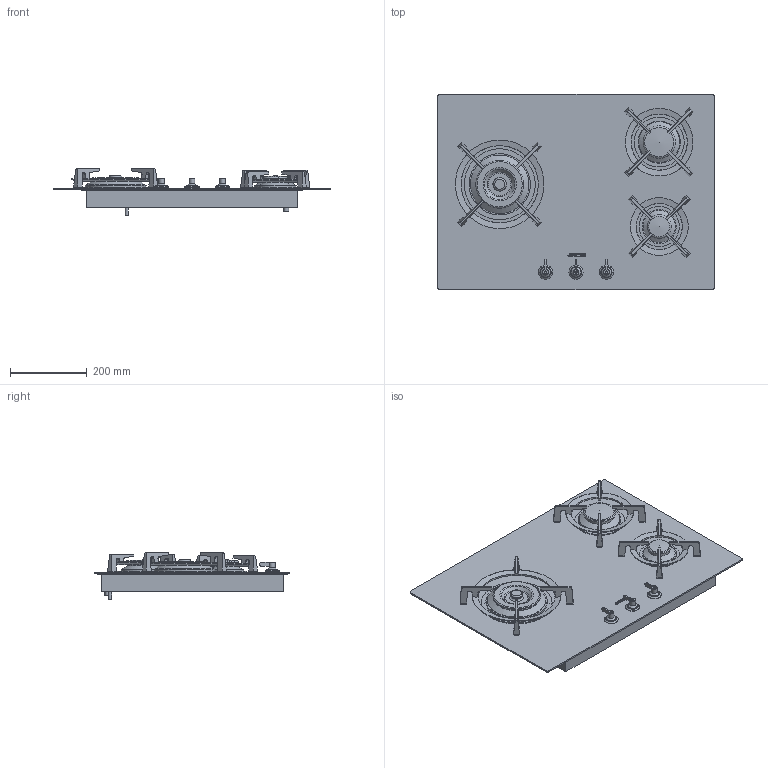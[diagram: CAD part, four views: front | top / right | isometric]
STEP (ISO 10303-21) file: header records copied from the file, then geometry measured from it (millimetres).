
FILE_DESCRIPTION(/* description */ (''),/* implementation_level */ '2;1');
FILE_NAME(/* name */ 'piano pc73.stp',/* time_stamp */ '2018-10-31T17:50:24+01:00',/* author */ (''),/* organization */ (''),/* preprocessor_version */ 'ST-DEVELOPER v16',/* originating_system */ 'SIEMENS PLM Software NX 11.0',/* authorisation */ '');
FILE_SCHEMA (('AUTOMOTIVE_DESIGN { 1 0 10303 214 3 1 1 1 }'));
Length unit declared in the file: millimetre
Products named in the file (1): gobb249C13F3gdnp
Bounding box: 720 x 510 x 121.5 mm (x, y, z)
Volume: 14332815.6 mm3; surface area: 1783032.4 mm2
Topology: 30 solids, 30 shells, 514 faces, 1214 edges, 797 vertices
Faces by surface type: plane 335, cylinder 117, torus 25, cone 13, extrusion 11, revolution 9, sphere 4
Full cylindrical faces by diameter (mm): 3.988 x6, 6 x3, 8.443 x1, 13 x2, 14.996 x3, 17 x3, 25 x4, 33 x1, 55 x1, 56 x1, 77.5 x1, 78.5 x1, 83 x1, 85 x1, 89 x1, 105 x1, 106 x1, 110 x2, 111 x1, 113.5 x1, 122 x1, 130 x1, 150.61 x1, 152 x1, 160 x1, 170 x1, 176.491 x1, 185 x1, 231.327 x1
Entity records: 14649 total; most frequent: CARTESIAN_POINT 2978, DIRECTION 2318, ORIENTED_EDGE 2186, EDGE_CURVE 1093, AXIS2_PLACEMENT_3D 779, VERTEX_POINT 773, VECTOR 751, LINE 740
